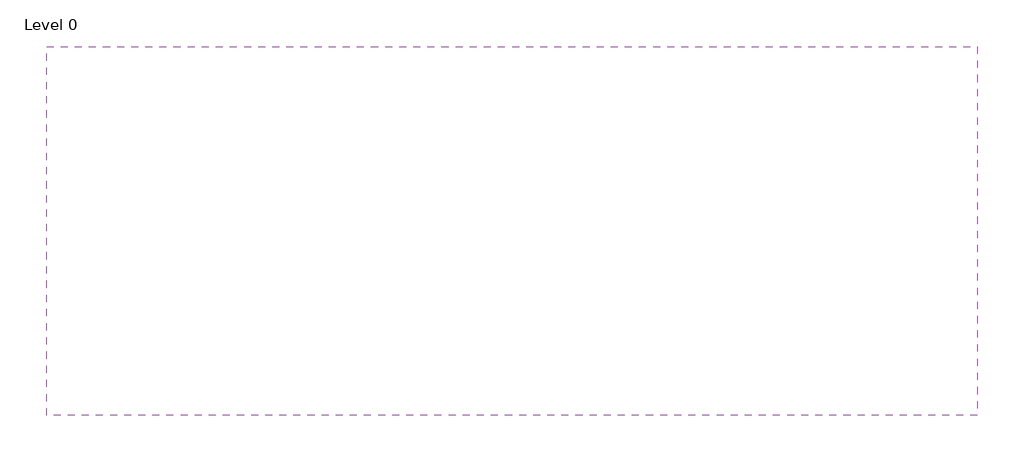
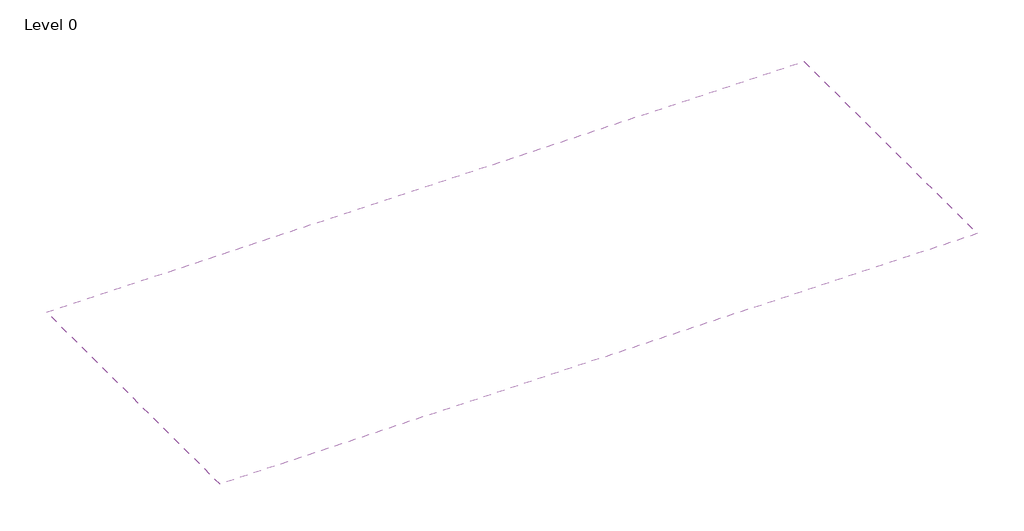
# One storey: 1 covering.
"""IFC4 building model written with IfcOpenShell, lengths in millimetres."""

import ifcopenshell
import ifcopenshell.guid

model = None  # the IFC model being written
_history = None  # IfcOwnerHistory: only IFC2X3 demands one
_inside = {}  # id of a spatial element -> (the spatial element, [elements in it])
_under = {}  # id of a project, library or spatial element -> (it, [spatial elements below it])
_declared = {}  # id of a project -> (the project, [libraries it declares])
_typed = {}  # id of a type object -> (the type object, [elements of that type])
_made_of = {}  # id of a material, layer set ... -> (it, [elements and type objects made of it])


def new_model(schema):
    """Start an empty IFC model of exactly this schema.

    Asked for "IFC4X3", IfcOpenShell would pick the latest addendum, in which some entities
    have other attributes; the version numbers below select the first issue.
    IFC2X3 requires an IfcOwnerHistory on every rooted entity: one is made here for all.
    """
    global model, _history
    if schema == "IFC4X3":
        model = ifcopenshell.file(schema_version=(4, 3, 0, 0))
    else:
        model = ifcopenshell.file(schema=schema)
    _inside.clear()
    _under.clear()
    _declared.clear()
    _typed.clear()
    _made_of.clear()
    _history = None
    if model.schema == "IFC2X3":
        org = make("IfcOrganization", Name="unknown")
        user = make(
            "IfcPersonAndOrganization",
            ThePerson=make("IfcPerson", FamilyName="unknown"),
            TheOrganization=org,
        )
        app = make(
            "IfcApplication",
            ApplicationDeveloper=org,
            Version="unknown",
            ApplicationFullName="unknown",
            ApplicationIdentifier="unknown",
        )
        _history = make(
            "IfcOwnerHistory",
            OwningUser=user,
            OwningApplication=app,
            ChangeAction="ADDED",
            CreationDate=0,
        )
    return model


def make(cls, **values):
    """One entity of the class cls with the attributes given. An attribute that is None is left unset."""
    return model.create_entity(
        cls, **{name: value for name, value in values.items() if value is not None}
    )


def rooted(cls, **values):
    """An entity with a GlobalId (a new one), such as an element, a storey or a relation."""
    return make(cls, GlobalId=ifcopenshell.guid.new(), OwnerHistory=_history, **values)


def si_unit(unit_type, name, prefix=None):
    """IfcSIUnit, for example si_unit("LENGTHUNIT", "METRE", prefix="MILLI")."""
    return make("IfcSIUnit", UnitType=unit_type, Prefix=prefix, Name=name)


def assignment(units):
    """IfcUnitAssignment: the units of a project."""
    return None if units is None else make("IfcUnitAssignment", Units=units)


def point(xyz):
    """IfcCartesianPoint."""
    return None if xyz is None else make("IfcCartesianPoint", Coordinates=xyz)


def direction(xyz):
    """IfcDirection."""
    return None if xyz is None else make("IfcDirection", DirectionRatios=xyz)


def frame(location, z_axis=None, x_axis=None):
    """IfcAxis2Placement3D, a coordinate frame: its origin and axes. An axis left out is left unset."""
    return make(
        "IfcAxis2Placement3D",
        Location=point(location),
        Axis=direction(z_axis),
        RefDirection=direction(x_axis),
    )


def origin():
    """The frame at (0, 0, 0) with its axes left unset."""
    return frame((0.0, 0.0, 0.0))


def place(relative_to, where):
    """IfcLocalPlacement: puts the frame where relative to a parent placement (None: the world)."""
    return make(
        "IfcLocalPlacement", PlacementRelTo=relative_to, RelativePlacement=where
    )


def context(
    kind, dimensions, precision=None, world=None, true_north=None, identifier=None
):
    """IfcGeometricRepresentationContext, for example the 3D "Model" context."""
    return make(
        "IfcGeometricRepresentationContext",
        ContextIdentifier=identifier,
        ContextType=kind,
        CoordinateSpaceDimension=dimensions,
        Precision=precision,
        WorldCoordinateSystem=world,
        TrueNorth=true_north,
    )


def project(units=None, contexts=None):
    """IfcProject with its units and contexts."""
    return rooted(
        "IfcProject",
        Name="project",
        RepresentationContexts=contexts,
        UnitsInContext=assignment(units),
    )


def spatial(cls, under=None, at=None, **own):
    """A site, building, storey or space (cls), placed at a placement, below another one or the project."""
    s = rooted(cls, ObjectPlacement=at, **own)
    if under is not None:
        _under.setdefault(under.id(), (under, []))[1].append(s)
    return s


def polyline(points):
    """IfcPolyline through the points."""
    return make("IfcPolyline", Points=[point(p) for p in points])


def outline(outer, holes=None, kind="AREA"):
    """IfcArbitraryClosedProfileDef: a profile drawn as a closed curve; with holes, ...WithVoids."""
    if holes is None:
        return make("IfcArbitraryClosedProfileDef", ProfileType=kind, OuterCurve=outer)
    return make(
        "IfcArbitraryProfileDefWithVoids",
        ProfileType=kind,
        OuterCurve=outer,
        InnerCurves=holes,
    )


def extrude(swept, where, along, depth):
    """IfcExtrudedAreaSolid: the profile swept, set in the frame where, extruded along a direction by depth."""
    return make(
        "IfcExtrudedAreaSolid",
        SweptArea=swept,
        Position=where,
        ExtrudedDirection=direction(along),
        Depth=depth,
    )


def shape(context_of_items, identifier, shape_type, items):
    """IfcShapeRepresentation: the items that make up one representation, for example the "Body"."""
    return make(
        "IfcShapeRepresentation",
        ContextOfItems=context_of_items,
        RepresentationIdentifier=identifier,
        RepresentationType=shape_type,
        Items=items,
    )


def made_of(thing, what):
    """Note that an element or type object is made of a material, layer set ...; save() writes the relation."""
    if what is not None:
        _made_of.setdefault(what.id(), (what, []))[1].append(thing)
    return thing


def element(
    cls,
    number,
    at=None,
    inside=None,
    cuts=None,
    type_object=None,
    material=None,
    context=None,
    identifier="Body",
    shape_type=None,
    held_by="IfcProductDefinitionShape",
    body=None,
    shapes=None,
    **own,
):
    """One element of the class cls, such as IfcWall. Its Tag is "e" and its number.

    at: its placement. inside: the storey or other place that contains it. cuts: it is an
    opening in that element (IfcRelVoidsElement). A single representation is given by context,
    identifier, shape_type and body (its items); several are given by shapes. held_by: the class
    of the entity that holds the representations. save() writes the other relations.
    """
    e = rooted(cls, Tag="e%d" % number, ObjectPlacement=at, **own)
    if body is not None:
        shapes = [shape(context, identifier, shape_type, body)]
    if shapes is not None:
        e.Representation = make(held_by, Representations=shapes)
    if inside is not None:
        _inside.setdefault(inside.id(), (inside, []))[1].append(e)
    if cuts is not None:
        rooted(
            "IfcRelVoidsElement", RelatingBuildingElement=cuts, RelatedOpeningElement=e
        )
    if type_object is not None:
        _typed.setdefault(type_object.id(), (type_object, []))[1].append(e)
    return made_of(e, material)


def aggregate(whole, parts):
    """IfcRelAggregates: a whole, such as a stair, and the parts it consists of."""
    return rooted("IfcRelAggregates", RelatingObject=whole, RelatedObjects=parts)


def save(model, path):
    """Write the relations noted so far, then the file.

    IfcRelAggregates (storeys below a building ...), IfcRelContainedInSpatialStructure (elements
    in a storey), IfcRelDefinesByType, IfcRelAssociatesMaterial and IfcRelDeclares: one each for
    every whole, place, type object, material and project.
    """
    for whole, parts in _under.values():
        aggregate(whole, parts)
    for where, things in _inside.values():
        rooted(
            "IfcRelContainedInSpatialStructure",
            RelatedElements=things,
            RelatingStructure=where,
        )
    for kind, things in _typed.values():
        rooted("IfcRelDefinesByType", RelatedObjects=things, RelatingType=kind)
    for what, things in _made_of.values():
        rooted("IfcRelAssociatesMaterial", RelatedObjects=things, RelatingMaterial=what)
    for by, libraries in _declared.values():
        rooted("IfcRelDeclares", RelatingContext=by, RelatedDefinitions=libraries)
    model.write(path)


model = new_model("IFC4")

# Units and contexts
model_context = context("Model", 3, world=origin())
ifc_project = project(units=[si_unit("LENGTHUNIT", "METRE", prefix="MILLI")], contexts=[model_context])

# Site, building, storey
site = spatial("IfcSite", under=ifc_project)
building = spatial("IfcBuilding", under=site)
storey = spatial("IfcBuildingStorey", under=building, Name="Level 0", Elevation=0.0)

# Covering
placement = place(None, origin())
element("IfcCovering", 1, ObjectType="C100016 - CasoLine MF", at=placement, inside=storey, context=model_context, shape_type="SweptSolid", body=[
    extrude(outline(polyline([(5539.9180902, 3298.2151047), (5539.9180902, -1501.7848953), (-6560.0819098, -1501.7848953), (-6560.0819098, 3298.2151047), (5539.9180902, 3298.2151047)])), frame((0.0, 0.0, 2600.0), z_axis=(0.0, 0.0, 1.0), x_axis=(1.0, 0.0, 0.0)), (0.0, 0.0, 1.0), 252.5),
])

save(model, "model.ifc")
